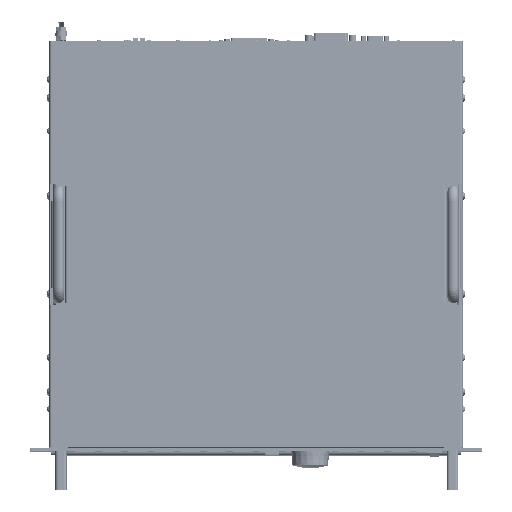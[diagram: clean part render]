
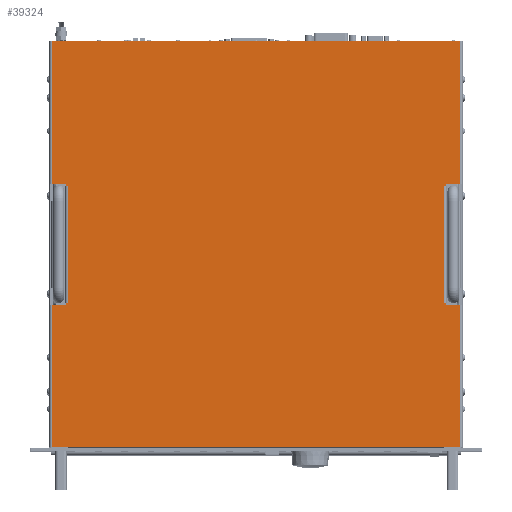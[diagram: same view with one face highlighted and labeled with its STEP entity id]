
A CAD part, top view. The second image highlights one B-rep face of the part: STEP entity #39324.
In plain terms, the highlighted planar face has unit normal (0, 0, 1).
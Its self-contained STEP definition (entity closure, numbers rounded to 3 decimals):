
#39324=ADVANCED_FACE('',(#84721),#84722,.F.);
#84721=FACE_OUTER_BOUND('',#166288,.T.);
#84722=PLANE('',#166289);
#166288=EDGE_LOOP('',(#280374,#280375,#280376,#280377,#280378,#280379,#280380,#280381,#280382,#280383,#280384,#280385,#280386,#280387,#280388,#280389,#280390,#280391,#280392,#280393));
#166289=AXIS2_PLACEMENT_3D('',#280394,#280395,#280396);
#280374=ORIENTED_EDGE('',*,*,#373309,.T.);
#280375=ORIENTED_EDGE('',*,*,#373329,.F.);
#280376=ORIENTED_EDGE('',*,*,#373330,.F.);
#280377=ORIENTED_EDGE('',*,*,#372973,.F.);
#280378=ORIENTED_EDGE('',*,*,#373295,.F.);
#280379=ORIENTED_EDGE('',*,*,#372958,.F.);
#280380=ORIENTED_EDGE('',*,*,#373284,.F.);
#280381=ORIENTED_EDGE('',*,*,#373331,.F.);
#280382=ORIENTED_EDGE('',*,*,#373327,.T.);
#280383=ORIENTED_EDGE('',*,*,#373322,.F.);
#280384=ORIENTED_EDGE('',*,*,#373319,.T.);
#280385=ORIENTED_EDGE('',*,*,#373332,.F.);
#280386=ORIENTED_EDGE('',*,*,#373260,.F.);
#280387=ORIENTED_EDGE('',*,*,#372948,.F.);
#280388=ORIENTED_EDGE('',*,*,#373249,.F.);
#280389=ORIENTED_EDGE('',*,*,#372968,.F.);
#280390=ORIENTED_EDGE('',*,*,#373333,.F.);
#280391=ORIENTED_EDGE('',*,*,#373334,.F.);
#280392=ORIENTED_EDGE('',*,*,#373306,.T.);
#280393=ORIENTED_EDGE('',*,*,#373314,.T.);
#280394=CARTESIAN_POINT('',(243.066,260.625,532.421));
#280395=DIRECTION('',(0.,0.,-1.0));
#280396=DIRECTION('',(-1.0,0.,0.));
#372948=EDGE_CURVE('',#447733,#447735,#447736,.T.);
#372958=EDGE_CURVE('',#447751,#447753,#447754,.T.);
#372968=EDGE_CURVE('',#447769,#447771,#447772,.T.);
#372973=EDGE_CURVE('',#447778,#447780,#447781,.T.);
#373249=EDGE_CURVE('',#447771,#447733,#448211,.T.);
#373260=EDGE_CURVE('',#447735,#448226,#448227,.T.);
#373284=EDGE_CURVE('',#448259,#447751,#448261,.T.);
#373295=EDGE_CURVE('',#447753,#447778,#448276,.T.);
#373306=EDGE_CURVE('',#448287,#448290,#448292,.T.);
#373309=EDGE_CURVE('',#448297,#448294,#448298,.T.);
#373314=EDGE_CURVE('',#448290,#448297,#448303,.T.);
#373319=EDGE_CURVE('',#448309,#448307,#448310,.T.);
#373322=EDGE_CURVE('',#448309,#448313,#448314,.T.);
#373327=EDGE_CURVE('',#448319,#448313,#448321,.T.);
#373329=EDGE_CURVE('',#448323,#448294,#448324,.T.);
#373330=EDGE_CURVE('',#447780,#448323,#448325,.T.);
#373331=EDGE_CURVE('',#448319,#448259,#448326,.T.);
#373332=EDGE_CURVE('',#448226,#448307,#448327,.T.);
#373333=EDGE_CURVE('',#448328,#447769,#448329,.T.);
#373334=EDGE_CURVE('',#448287,#448328,#448330,.T.);
#447733=VERTEX_POINT('',#560039);
#447735=VERTEX_POINT('',#560041);
#447736=LINE('',#560042,#560043);
#447751=VERTEX_POINT('',#560061);
#447753=VERTEX_POINT('',#560063);
#447754=LINE('',#560064,#560065);
#447769=VERTEX_POINT('',#560083);
#447771=VERTEX_POINT('',#560085);
#447772=LINE('',#560086,#560087);
#447778=VERTEX_POINT('',#560094);
#447780=VERTEX_POINT('',#560096);
#447781=LINE('',#560097,#560098);
#448211=LINE('',#560649,#560650);
#448226=VERTEX_POINT('',#560670);
#448227=LINE('',#560671,#560672);
#448259=VERTEX_POINT('',#560718);
#448261=LINE('',#560721,#560722);
#448276=LINE('',#560742,#560743);
#448287=VERTEX_POINT('',#560758);
#448290=VERTEX_POINT('',#560762);
#448292=LINE('',#560764,#560765);
#448294=VERTEX_POINT('',#560767);
#448297=VERTEX_POINT('',#560771);
#448298=LINE('',#560772,#560773);
#448303=LINE('',#560778,#560779);
#448307=VERTEX_POINT('',#560784);
#448309=VERTEX_POINT('',#560787);
#448310=LINE('',#560788,#560789);
#448313=VERTEX_POINT('',#560792);
#448314=LINE('',#560793,#560794);
#448319=VERTEX_POINT('',#560799);
#448321=LINE('',#560802,#560803);
#448323=VERTEX_POINT('',#560805);
#448324=LINE('',#560806,#560807);
#448325=LINE('',#560808,#560809);
#448326=LINE('',#560810,#560811);
#448327=LINE('',#560812,#560813);
#448328=VERTEX_POINT('',#560814);
#448329=LINE('',#560815,#560816);
#448330=LINE('',#560817,#560818);
#560039=CARTESIAN_POINT('',(460.743,477.25,532.421));
#560041=CARTESIAN_POINT('',(460.743,325.25,532.421));
#560042=CARTESIAN_POINT('',(460.743,330.938,532.421));
#560043=VECTOR('',#644045,1.0);
#560061=CARTESIAN_POINT('',(460.743,196.,532.421));
#560063=CARTESIAN_POINT('',(460.743,44.,532.421));
#560064=CARTESIAN_POINT('',(460.743,190.313,532.421));
#560065=VECTOR('',#644061,1.0);
#560083=CARTESIAN_POINT('',(25.388,325.25,532.421));
#560085=CARTESIAN_POINT('',(25.388,477.25,532.421));
#560086=CARTESIAN_POINT('',(25.388,330.938,532.421));
#560087=VECTOR('',#644077,1.0);
#560094=CARTESIAN_POINT('',(25.388,44.,532.421));
#560096=CARTESIAN_POINT('',(25.388,196.,532.421));
#560097=CARTESIAN_POINT('',(25.388,190.313,532.421));
#560098=VECTOR('',#644085,1.0);
#560649=CARTESIAN_POINT('',(22.638,477.25,532.421));
#560650=VECTOR('',#644471,1.0);
#560670=CARTESIAN_POINT('',(445.493,325.25,532.421));
#560671=CARTESIAN_POINT('',(463.493,325.25,532.421));
#560672=VECTOR('',#644489,1.0);
#560718=CARTESIAN_POINT('',(445.493,196.,532.421));
#560721=CARTESIAN_POINT('',(445.493,196.,532.421));
#560722=VECTOR('',#644517,1.0);
#560742=CARTESIAN_POINT('',(463.493,44.,532.421));
#560743=VECTOR('',#644535,1.0);
#560758=CARTESIAN_POINT('',(40.638,323.25,532.421));
#560762=CARTESIAN_POINT('',(42.388,323.25,532.421));
#560764=CARTESIAN_POINT('',(141.772,323.25,532.421));
#560765=VECTOR('',#644547,1.0);
#560767=CARTESIAN_POINT('',(40.638,198.,532.421));
#560771=CARTESIAN_POINT('',(42.388,198.,532.421));
#560772=CARTESIAN_POINT('',(141.772,198.,532.421));
#560773=VECTOR('',#644549,1.0);
#560778=CARTESIAN_POINT('',(42.388,260.625,532.421));
#560779=VECTOR('',#644559,1.0);
#560784=CARTESIAN_POINT('',(445.493,323.25,532.421));
#560787=CARTESIAN_POINT('',(443.743,323.25,532.421));
#560788=CARTESIAN_POINT('',(344.359,323.25,532.421));
#560789=VECTOR('',#644562,1.0);
#560792=CARTESIAN_POINT('',(443.743,198.,532.421));
#560793=CARTESIAN_POINT('',(443.743,260.625,532.421));
#560794=VECTOR('',#644566,1.0);
#560799=CARTESIAN_POINT('',(445.493,198.,532.421));
#560802=CARTESIAN_POINT('',(344.359,198.,532.421));
#560803=VECTOR('',#644574,1.0);
#560805=CARTESIAN_POINT('',(40.638,196.,532.421));
#560806=CARTESIAN_POINT('',(40.638,196.,532.421));
#560807=VECTOR('',#644575,1.0);
#560808=CARTESIAN_POINT('',(22.638,196.,532.421));
#560809=VECTOR('',#644576,1.0);
#560810=CARTESIAN_POINT('',(445.493,198.,532.421));
#560811=VECTOR('',#644577,1.0);
#560812=CARTESIAN_POINT('',(445.493,325.25,532.421));
#560813=VECTOR('',#644578,1.0);
#560814=CARTESIAN_POINT('',(40.638,325.25,532.421));
#560815=CARTESIAN_POINT('',(40.638,325.25,532.421));
#560816=VECTOR('',#644579,1.0);
#560817=CARTESIAN_POINT('',(40.638,323.25,532.421));
#560818=VECTOR('',#644580,1.0);
#644045=DIRECTION('',(0.,-1.0,0.));
#644061=DIRECTION('',(0.,-1.0,0.));
#644077=DIRECTION('',(0.,1.0,0.));
#644085=DIRECTION('',(0.,1.0,0.));
#644471=DIRECTION('',(1.0,0.,0.));
#644489=DIRECTION('',(-1.0,0.,0.));
#644517=DIRECTION('',(1.0,0.,0.));
#644535=DIRECTION('',(-1.0,0.,0.));
#644547=DIRECTION('',(1.0,0.,0.));
#644549=DIRECTION('',(-1.0,0.,0.));
#644559=DIRECTION('',(0.,-1.0,0.));
#644562=DIRECTION('',(1.0,0.,0.));
#644566=DIRECTION('',(0.,-1.0,0.));
#644574=DIRECTION('',(-1.0,0.,0.));
#644575=DIRECTION('',(0.,1.0,0.));
#644576=DIRECTION('',(1.0,0.,0.));
#644577=DIRECTION('',(0.,-1.0,0.));
#644578=DIRECTION('',(0.,-1.0,0.));
#644579=DIRECTION('',(-1.0,0.,0.));
#644580=DIRECTION('',(0.,1.0,0.));
